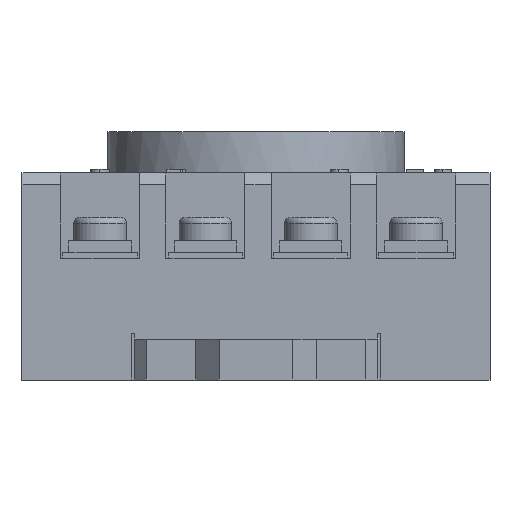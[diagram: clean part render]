
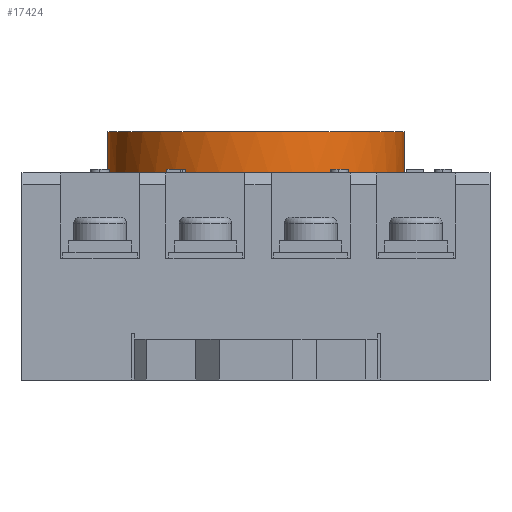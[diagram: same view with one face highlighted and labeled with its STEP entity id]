
A CAD part, front view. The second image highlights one B-rep face of the part: STEP entity #17424.
In plain terms, the highlighted cylindrical face has radius 12.65 mm (diameter 25.3 mm), a partial arc.
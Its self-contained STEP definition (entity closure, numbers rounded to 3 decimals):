
#2104 = ORIENTED_EDGE ( 'NONE', *, *, #15794, .T. ) ;
#2105 = ORIENTED_EDGE ( 'NONE', *, *, #15793, .F. ) ;
#2106 = ORIENTED_EDGE ( 'NONE', *, *, #17578, .F. ) ;
#2107 = ORIENTED_EDGE ( 'NONE', *, *, #17579, .T. ) ;
#2108 = ORIENTED_EDGE ( 'NONE', *, *, #15809, .T. ) ;
#2109 = ORIENTED_EDGE ( 'NONE', *, *, #15667, .T. ) ;
#2110 = ORIENTED_EDGE ( 'NONE', *, *, #17580, .F. ) ;
#2112 = ORIENTED_EDGE ( 'NONE', *, *, #17581, .F. ) ;
#3050 = VERTEX_POINT ( 'NONE', #5405 ) ;
#3273 = VERTEX_POINT ( 'NONE', #5627 ) ;
#3373 = VERTEX_POINT ( 'NONE', #5727 ) ;
#3428 = VERTEX_POINT ( 'NONE', #5782 ) ;
#3566 = VERTEX_POINT ( 'NONE', #5920 ) ;
#3571 = VERTEX_POINT ( 'NONE', #5925 ) ;
#3572 = VERTEX_POINT ( 'NONE', #5926 ) ;
#3573 = VERTEX_POINT ( 'NONE', #5927 ) ;
#4354 = EDGE_LOOP ( 'NONE', ( #2105, #2106, #2104, #2108, #2107, #2109, #2110, #2112 ) ) ;
#5405 = CARTESIAN_POINT ( 'NONE',  ( 12.001, -4., 15.3 ) ) ;
#5627 = CARTESIAN_POINT ( 'NONE',  ( -12.001, -4., 15.3 ) ) ;
#5727 = CARTESIAN_POINT ( 'NONE',  ( 12.001, -4., 17.7 ) ) ;
#5782 = CARTESIAN_POINT ( 'NONE',  ( -12.001, -4., 17.7 ) ) ;
#5920 = CARTESIAN_POINT ( 'NONE',  ( -12.65, 0., 15.3 ) ) ;
#5925 = CARTESIAN_POINT ( 'NONE',  ( 12.65, 0., 15.3 ) ) ;
#5926 = CARTESIAN_POINT ( 'NONE',  ( -12.65, 0., 21.2 ) ) ;
#5927 = CARTESIAN_POINT ( 'NONE',  ( 12.65, 0., 21.2 ) ) ;
#7221 = CARTESIAN_POINT ( 'NONE',  ( 0., 0., 17.7 ) ) ;
#7237 = DIRECTION ( 'NONE',  ( 0., 0., 1. ) ) ;
#7238 = DIRECTION ( 'NONE',  ( -1., 0., 0. ) ) ;
#7707 = LINE ( 'NONE', #7708, #17756 ) ;
#7708 = CARTESIAN_POINT ( 'NONE',  ( 12.65, 0., 21.2 ) ) ;
#7709 = DIRECTION ( 'NONE',  ( 0., 0., -1. ) ) ;
#7710 = LINE ( 'NONE', #7711, #17829 ) ;
#7711 = CARTESIAN_POINT ( 'NONE',  ( -12.65, 0., 21.2 ) ) ;
#7712 = DIRECTION ( 'NONE',  ( 0., 0., -1. ) ) ;
#7754 = CARTESIAN_POINT ( 'NONE',  ( 0., 0., 15.3 ) ) ;
#7755 = DIRECTION ( 'NONE',  ( 0., 0., 1. ) ) ;
#7756 = DIRECTION ( 'NONE',  ( -1., 0., 0. ) ) ;
#12909 = CARTESIAN_POINT ( 'NONE',  ( 0., 0., 21.2 ) ) ;
#12910 = DIRECTION ( 'NONE',  ( 0., 0., -1. ) ) ;
#12911 = DIRECTION ( 'NONE',  ( -1., 0., 0. ) ) ;
#14921 = CIRCLE ( 'NONE', #17796, 12.65 ) ;
#14946 = CIRCLE ( 'NONE', #19040, 12.65 ) ;
#14948 = CIRCLE ( 'NONE', #19038, 12.65 ) ;
#15134 = CARTESIAN_POINT ( 'NONE',  ( 0., 0., 21.2 ) ) ;
#15135 = DIRECTION ( 'NONE',  ( 0., 0., 1. ) ) ;
#15136 = DIRECTION ( 'NONE',  ( 1., 0., 0. ) ) ;
#15137 = CARTESIAN_POINT ( 'NONE',  ( 0., 0., 15.3 ) ) ;
#15138 = LINE ( 'NONE', #15139, #19047 ) ;
#15139 = CARTESIAN_POINT ( 'NONE',  ( -12.001, -4., 15.3 ) ) ;
#15140 = DIRECTION ( 'NONE',  ( 0., 0., 1. ) ) ;
#15141 = LINE ( 'NONE', #15142, #19049 ) ;
#15142 = CARTESIAN_POINT ( 'NONE',  ( 12.001, -4., 15.3 ) ) ;
#15143 = DIRECTION ( 'NONE',  ( 0., 0., 1. ) ) ;
#15144 = DIRECTION ( 'NONE',  ( 0., 0., -1. ) ) ;
#15145 = DIRECTION ( 'NONE',  ( 1., 0., 0. ) ) ;
#15443 = CIRCLE ( 'NONE', #16619, 12.65 ) ;
#15667 = EDGE_CURVE ( 'NONE', #3428, #3373, #15443, .T. ) ;
#15793 = EDGE_CURVE ( 'NONE', #3573, #3571, #7707, .T. ) ;
#15794 = EDGE_CURVE ( 'NONE', #3572, #3566, #7710, .T. ) ;
#15809 = EDGE_CURVE ( 'NONE', #3566, #3273, #14921, .T. ) ;
#16619 = AXIS2_PLACEMENT_3D ( 'NONE', #7221, #7237, #7238 ) ;
#17424 = ADVANCED_FACE ( 'NONE', ( #18748 ), #18751, .T. ) ;
#17578 = EDGE_CURVE ( 'NONE', #3572, #3573, #14946, .T. ) ;
#17579 = EDGE_CURVE ( 'NONE', #3273, #3428, #15138, .T. ) ;
#17580 = EDGE_CURVE ( 'NONE', #3050, #3373, #15141, .T. ) ;
#17581 = EDGE_CURVE ( 'NONE', #3571, #3050, #14948, .T. ) ;
#17756 = VECTOR ( 'NONE', #7709, 1000. ) ;
#17796 = AXIS2_PLACEMENT_3D ( 'NONE', #7754, #7755, #7756 ) ;
#17829 = VECTOR ( 'NONE', #7712, 1000. ) ;
#18748 = FACE_OUTER_BOUND ( 'NONE', #4354, .T. ) ;
#18751 = CYLINDRICAL_SURFACE ( 'NONE', #18752, 12.65 ) ;
#18752 = AXIS2_PLACEMENT_3D ( 'NONE', #12909, #12910, #12911 ) ;
#19038 = AXIS2_PLACEMENT_3D ( 'NONE', #15137, #15144, #15145 ) ;
#19040 = AXIS2_PLACEMENT_3D ( 'NONE', #15134, #15135, #15136 ) ;
#19047 = VECTOR ( 'NONE', #15140, 1000. ) ;
#19049 = VECTOR ( 'NONE', #15143, 1000. ) ;
